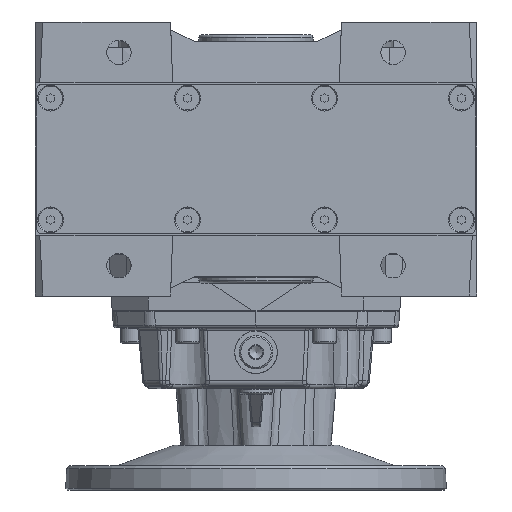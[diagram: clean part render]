
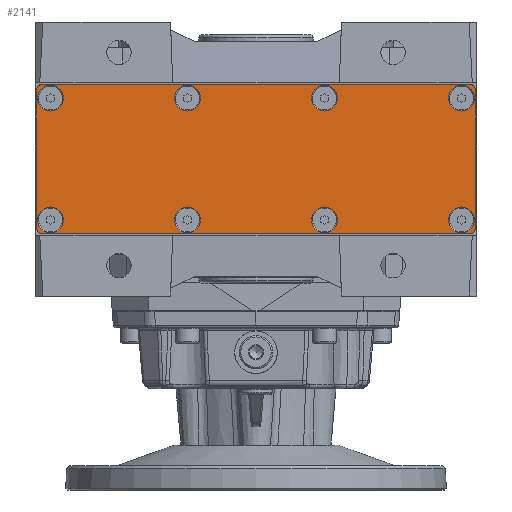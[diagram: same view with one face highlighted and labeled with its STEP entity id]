
A CAD part, front view. The second image highlights one B-rep face of the part: STEP entity #2141.
In plain terms, the highlighted planar face has unit normal (0, -1, 0).
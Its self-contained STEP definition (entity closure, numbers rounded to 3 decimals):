
#2141 = ADVANCED_FACE( '', ( #5418, #5419, #5420, #5421, #5422, #5423, #5424, #5425, #5426 ), #5427, .F. );
#5418 = FACE_OUTER_BOUND( '', #13892, .T. );
#5419 = FACE_BOUND( '', #13893, .T. );
#5420 = FACE_BOUND( '', #13894, .T. );
#5421 = FACE_BOUND( '', #13895, .T. );
#5422 = FACE_BOUND( '', #13896, .T. );
#5423 = FACE_BOUND( '', #13897, .T. );
#5424 = FACE_BOUND( '', #13898, .T. );
#5425 = FACE_BOUND( '', #13899, .T. );
#5426 = FACE_BOUND( '', #13900, .T. );
#5427 = PLANE( '', #13901 );
#13892 = EDGE_LOOP( '', ( #27499, #27500, #27501, #27502, #27503, #27504, #27505, #27506 ) );
#13893 = EDGE_LOOP( '', ( #27507 ) );
#13894 = EDGE_LOOP( '', ( #27508 ) );
#13895 = EDGE_LOOP( '', ( #27509 ) );
#13896 = EDGE_LOOP( '', ( #27510 ) );
#13897 = EDGE_LOOP( '', ( #27511 ) );
#13898 = EDGE_LOOP( '', ( #27512 ) );
#13899 = EDGE_LOOP( '', ( #27513 ) );
#13900 = EDGE_LOOP( '', ( #27514 ) );
#13901 = AXIS2_PLACEMENT_3D( '', #27515, #27516, #27517 );
#27499 = ORIENTED_EDGE( '', *, *, #36826, .F. );
#27500 = ORIENTED_EDGE( '', *, *, #36595, .F. );
#27501 = ORIENTED_EDGE( '', *, *, #36978, .F. );
#27502 = ORIENTED_EDGE( '', *, *, #36781, .F. );
#27503 = ORIENTED_EDGE( '', *, *, #36979, .F. );
#27504 = ORIENTED_EDGE( '', *, *, #36980, .F. );
#27505 = ORIENTED_EDGE( '', *, *, #36981, .F. );
#27506 = ORIENTED_EDGE( '', *, *, #35264, .F. );
#27507 = ORIENTED_EDGE( '', *, *, #36313, .T. );
#27508 = ORIENTED_EDGE( '', *, *, #36982, .T. );
#27509 = ORIENTED_EDGE( '', *, *, #36983, .T. );
#27510 = ORIENTED_EDGE( '', *, *, #36984, .T. );
#27511 = ORIENTED_EDGE( '', *, *, #36985, .T. );
#27512 = ORIENTED_EDGE( '', *, *, #36986, .T. );
#27513 = ORIENTED_EDGE( '', *, *, #35413, .T. );
#27514 = ORIENTED_EDGE( '', *, *, #36987, .T. );
#27515 = CARTESIAN_POINT( '', ( 0., -144.5, -73. ) );
#27516 = DIRECTION( '', ( 0., 1., 0. ) );
#27517 = DIRECTION( '', ( -1., 0., 0. ) );
#35264 = EDGE_CURVE( '', #39499, #39501, #39502, .T. );
#35413 = EDGE_CURVE( '', #39762, #39762, #39763, .T. );
#36313 = EDGE_CURVE( '', #41294, #41294, #41295, .T. );
#36595 = EDGE_CURVE( '', #41756, #41758, #41759, .T. );
#36781 = EDGE_CURVE( '', #42044, #42046, #42047, .T. );
#36826 = EDGE_CURVE( '', #41758, #39499, #42118, .T. );
#36978 = EDGE_CURVE( '', #42046, #41756, #42347, .T. );
#36979 = EDGE_CURVE( '', #42348, #42044, #42349, .T. );
#36980 = EDGE_CURVE( '', #42350, #42348, #42351, .T. );
#36981 = EDGE_CURVE( '', #39501, #42350, #42352, .T. );
#36982 = EDGE_CURVE( '', #42353, #42353, #42354, .T. );
#36983 = EDGE_CURVE( '', #42355, #42355, #42356, .T. );
#36984 = EDGE_CURVE( '', #42357, #42357, #42358, .T. );
#36985 = EDGE_CURVE( '', #42359, #42359, #42360, .T. );
#36986 = EDGE_CURVE( '', #42361, #42361, #42362, .T. );
#36987 = EDGE_CURVE( '', #42363, #42363, #42364, .T. );
#39499 = VERTEX_POINT( '', #45640 );
#39501 = VERTEX_POINT( '', #45643 );
#39502 = CIRCLE( '', #45644, 3. );
#39762 = VERTEX_POINT( '', #46047 );
#39763 = CIRCLE( '', #46048, 8.5 );
#41294 = VERTEX_POINT( '', #49606 );
#41295 = CIRCLE( '', #49607, 8.5 );
#41756 = VERTEX_POINT( '', #51203 );
#41758 = VERTEX_POINT( '', #51206 );
#41759 = CIRCLE( '', #51207, 3. );
#42044 = VERTEX_POINT( '', #51836 );
#42046 = VERTEX_POINT( '', #51839 );
#42047 = CIRCLE( '', #51840, 3. );
#42118 = LINE( '', #51935, #51936 );
#42347 = LINE( '', #52376, #52377 );
#42348 = VERTEX_POINT( '', #52378 );
#42349 = LINE( '', #52379, #52380 );
#42350 = VERTEX_POINT( '', #52381 );
#42351 = CIRCLE( '', #52382, 3. );
#42352 = LINE( '', #52383, #52384 );
#42353 = VERTEX_POINT( '', #52385 );
#42354 = CIRCLE( '', #52386, 8.5 );
#42355 = VERTEX_POINT( '', #52387 );
#42356 = CIRCLE( '', #52388, 8.5 );
#42357 = VERTEX_POINT( '', #52389 );
#42358 = CIRCLE( '', #52390, 8.5 );
#42359 = VERTEX_POINT( '', #52391 );
#42360 = CIRCLE( '', #52392, 8.5 );
#42361 = VERTEX_POINT( '', #52393 );
#42362 = CIRCLE( '', #52394, 8.5 );
#42363 = VERTEX_POINT( '', #52395 );
#42364 = CIRCLE( '', #52396, 8.5 );
#45640 = CARTESIAN_POINT( '', ( -141., -144.5, -122. ) );
#45643 = CARTESIAN_POINT( '', ( -144., -144.5, -119. ) );
#45644 = AXIS2_PLACEMENT_3D( '', #58614, #58615, #58616 );
#46047 = CARTESIAN_POINT( '', ( -53.5, -144.5, -113. ) );
#46048 = AXIS2_PLACEMENT_3D( '', #58825, #58826, #58827 );
#49606 = CARTESIAN_POINT( '', ( 126.5, -144.5, -33. ) );
#49607 = AXIS2_PLACEMENT_3D( '', #59951, #59952, #59953 );
#51203 = CARTESIAN_POINT( '', ( 144., -144.5, -119. ) );
#51206 = CARTESIAN_POINT( '', ( 141., -144.5, -122. ) );
#51207 = AXIS2_PLACEMENT_3D( '', #60350, #60351, #60352 );
#51836 = CARTESIAN_POINT( '', ( 141., -144.5, -24. ) );
#51839 = CARTESIAN_POINT( '', ( 144., -144.5, -27. ) );
#51840 = AXIS2_PLACEMENT_3D( '', #60562, #60563, #60564 );
#51935 = CARTESIAN_POINT( '', ( 144., -144.5, -122. ) );
#51936 = VECTOR( '', #60616, 1000. );
#52376 = CARTESIAN_POINT( '', ( 144., -144.5, -24. ) );
#52377 = VECTOR( '', #60798, 1000. );
#52378 = CARTESIAN_POINT( '', ( -141., -144.5, -24. ) );
#52379 = CARTESIAN_POINT( '', ( -144., -144.5, -24. ) );
#52380 = VECTOR( '', #60799, 1000. );
#52381 = CARTESIAN_POINT( '', ( -144., -144.5, -27. ) );
#52382 = AXIS2_PLACEMENT_3D( '', #60800, #60801, #60802 );
#52383 = CARTESIAN_POINT( '', ( -144., -144.5, -73. ) );
#52384 = VECTOR( '', #60803, 1000. );
#52385 = CARTESIAN_POINT( '', ( 36.5, -144.5, -33. ) );
#52386 = AXIS2_PLACEMENT_3D( '', #60804, #60805, #60806 );
#52387 = CARTESIAN_POINT( '', ( -53.5, -144.5, -33. ) );
#52388 = AXIS2_PLACEMENT_3D( '', #60807, #60808, #60809 );
#52389 = CARTESIAN_POINT( '', ( -143.5, -144.5, -33. ) );
#52390 = AXIS2_PLACEMENT_3D( '', #60810, #60811, #60812 );
#52391 = CARTESIAN_POINT( '', ( 126.5, -144.5, -113. ) );
#52392 = AXIS2_PLACEMENT_3D( '', #60813, #60814, #60815 );
#52393 = CARTESIAN_POINT( '', ( 36.5, -144.5, -113. ) );
#52394 = AXIS2_PLACEMENT_3D( '', #60816, #60817, #60818 );
#52395 = CARTESIAN_POINT( '', ( -143.5, -144.5, -113. ) );
#52396 = AXIS2_PLACEMENT_3D( '', #60819, #60820, #60821 );
#58614 = CARTESIAN_POINT( '', ( -141., -144.5, -119. ) );
#58615 = DIRECTION( '', ( 0., 1., 0. ) );
#58616 = DIRECTION( '', ( -1., 0., 0. ) );
#58825 = CARTESIAN_POINT( '', ( -45., -144.5, -113. ) );
#58826 = DIRECTION( '', ( 0., 1., 0. ) );
#58827 = DIRECTION( '', ( -1., 0., 0. ) );
#59951 = CARTESIAN_POINT( '', ( 135., -144.5, -33. ) );
#59952 = DIRECTION( '', ( 0., 1., 0. ) );
#59953 = DIRECTION( '', ( -1., 0., 0. ) );
#60350 = CARTESIAN_POINT( '', ( 141., -144.5, -119. ) );
#60351 = DIRECTION( '', ( 0., 1., 0. ) );
#60352 = DIRECTION( '', ( -1., 0., 0. ) );
#60562 = CARTESIAN_POINT( '', ( 141., -144.5, -27. ) );
#60563 = DIRECTION( '', ( 0., 1., 0. ) );
#60564 = DIRECTION( '', ( -1., 0., 0. ) );
#60616 = DIRECTION( '', ( -1., 0., 0. ) );
#60798 = DIRECTION( '', ( 0., 0., -1. ) );
#60799 = DIRECTION( '', ( 1., 0., 0. ) );
#60800 = CARTESIAN_POINT( '', ( -141., -144.5, -27. ) );
#60801 = DIRECTION( '', ( 0., 1., 0. ) );
#60802 = DIRECTION( '', ( -1., 0., 0. ) );
#60803 = DIRECTION( '', ( 0., 0., 1. ) );
#60804 = CARTESIAN_POINT( '', ( 45., -144.5, -33. ) );
#60805 = DIRECTION( '', ( 0., 1., 0. ) );
#60806 = DIRECTION( '', ( -1., 0., 0. ) );
#60807 = CARTESIAN_POINT( '', ( -45., -144.5, -33. ) );
#60808 = DIRECTION( '', ( 0., 1., 0. ) );
#60809 = DIRECTION( '', ( -1., 0., 0. ) );
#60810 = CARTESIAN_POINT( '', ( -135., -144.5, -33. ) );
#60811 = DIRECTION( '', ( 0., 1., 0. ) );
#60812 = DIRECTION( '', ( -1., 0., 0. ) );
#60813 = CARTESIAN_POINT( '', ( 135., -144.5, -113. ) );
#60814 = DIRECTION( '', ( 0., 1., 0. ) );
#60815 = DIRECTION( '', ( -1., 0., 0. ) );
#60816 = CARTESIAN_POINT( '', ( 45., -144.5, -113. ) );
#60817 = DIRECTION( '', ( 0., 1., 0. ) );
#60818 = DIRECTION( '', ( -1., 0., 0. ) );
#60819 = CARTESIAN_POINT( '', ( -135., -144.5, -113. ) );
#60820 = DIRECTION( '', ( 0., 1., 0. ) );
#60821 = DIRECTION( '', ( -1., 0., 0. ) );
